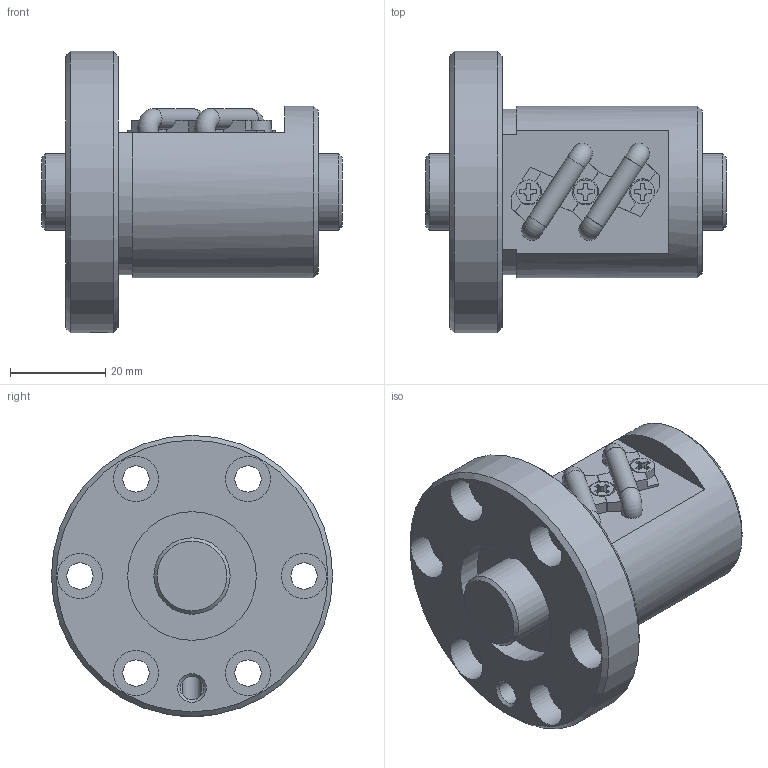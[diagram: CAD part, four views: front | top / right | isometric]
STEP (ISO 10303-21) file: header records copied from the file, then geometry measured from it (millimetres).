
FILE_DESCRIPTION(/* description */ ('STEP AP203'),/* implementation_level */ '2;1');
FILE_NAME(/* name */ 'BIF1604V-5RRG0+63LC0_000',/* time_stamp */ '2024-07-15T08:16:27+02:00',/* author */ ('License CC BY-ND 4.0'),/* organization */ ('CADENAS'),/* preprocessor_version */ 'ST-DEVELOPER v19.3',/* originating_system */ 'PARTsolutions',/* authorisation */ ' ');
FILE_SCHEMA (('CONFIG_CONTROL_DESIGN'));
Length unit declared in the file: millimetre
Products named in the file (3): BIF1604V-5RRG0+63LC0_000; BIF1604V-5RR000 Shaft; BIF1604V-5RR Nut
Assembly tree (2 placements, depth 2):
  BIF1604V-5RRG0+63LC0_000
    BIF1604V-5RR000 Shaft
    BIF1604V-5RR Nut
Bounding box: 63 x 59 x 59 mm (x, y, z)
Volume: 64876.5 mm3; surface area: 20596.3 mm2
Topology: 2 solids, 2 shells, 171 faces, 446 edges, 292 vertices
Faces by surface type: plane 112, cylinder 47, cone 8, torus 4
Full cylindrical faces by diameter (mm): 4 x2, 4.3 x2, 4.917 x1, 5 x3, 5.5 x6, 9.5 x6, 16 x2, 27 x2, 36 x1, 59 x1
Entity records: 5170 total; most frequent: CARTESIAN_POINT 971, DIRECTION 862, ORIENTED_EDGE 804, EDGE_CURVE 402, AXIS2_PLACEMENT_3D 304, VERTEX_POINT 282, LINE 254, VECTOR 254
